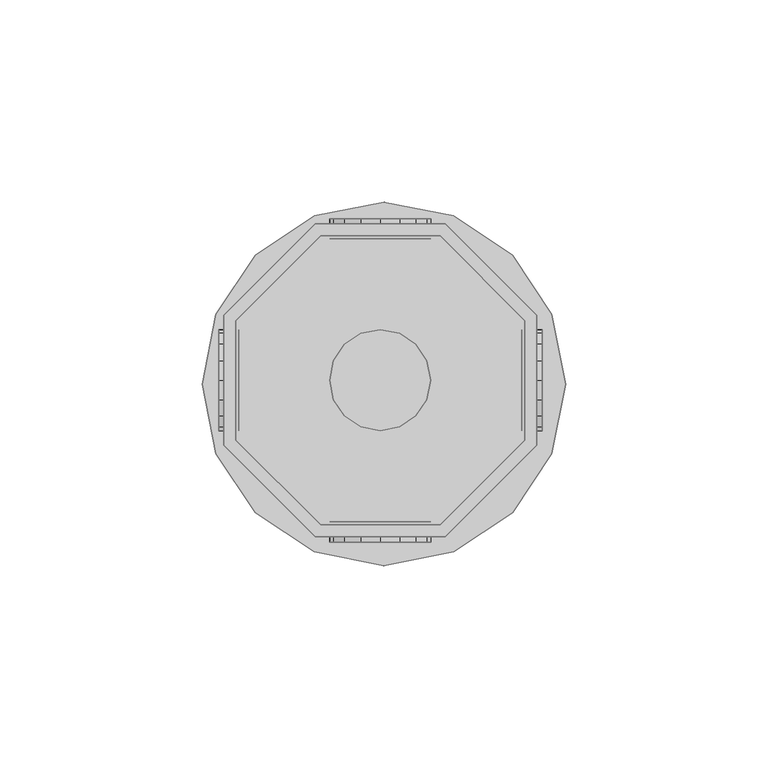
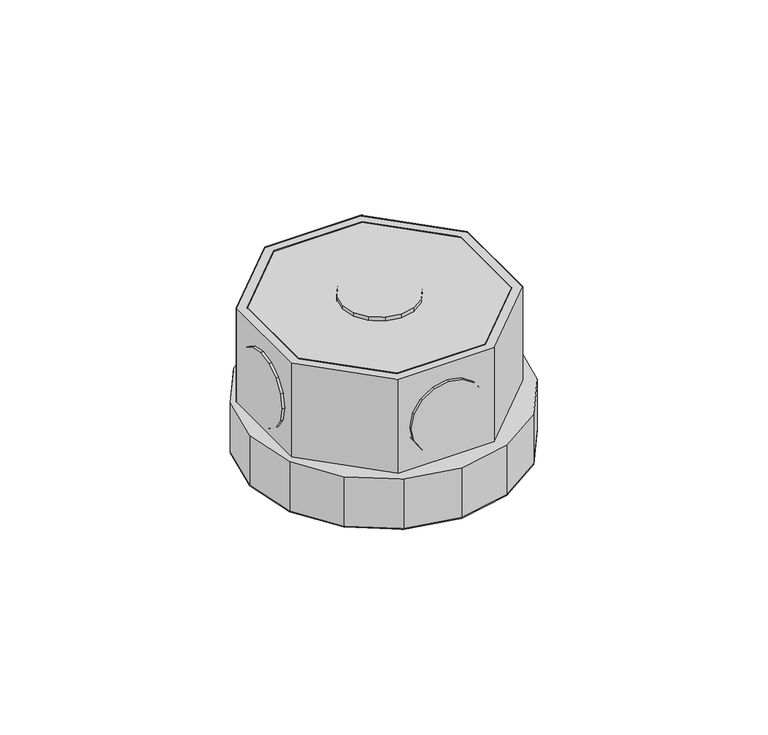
"""IFC4 building model written with IfcOpenShell, lengths in millimetres: light fixture geometry,  213746 :  213746."""

from ifc_helpers import new_model, si_unit, origin, place, context, project, spatial, triangles, source, transform, mapped, element, save


def light_fixture_97118761(model_context):
    return source(origin(), model_context, "Body", "Tessellation", [
        triangles([(13460.0005096, 23883.0003479, 2924.5999741), (13430.3999908, 23883.0003479, 2975.400071), (13430.3999908, 23883.0003479, 2924.5999741), (13460.0005096, 23883.0003479, 2975.400071), (13461.2004364, 23808.5002441, 2924.5999741), (13429.1000702, 23808.5002441, 2975.400071), (13429.1000702, 23808.5002441, 2924.5999741), (13461.2004364, 23808.5002441, 2975.400071), (13409.4001099, 23861.9993042, 2975.400071), (13409.4001099, 23861.9993042, 2924.5999741), (13483.9002136, 23831.1988586, 2924.5999741), (13483.9002136, 23831.1988586, 2975.400071), (13409.4001099, 23832.4011108, 2975.400071), (13409.4001099, 23832.4011108, 2924.5999741), (13483.9002136, 23863.2992249, 2924.5999741), (13483.9002136, 23863.2992249, 2975.400071), (13430.3999908, 23811.500061, 2975.400071), (13430.3999908, 23811.500061, 2924.5999741), (13461.2004364, 23886.0001648, 2924.5999741), (13461.2004364, 23886.0001648, 2975.400071), (13460.0005096, 23811.500061, 2924.5999741), (13460.0005096, 23811.500061, 2975.400071), (13429.1000702, 23886.0001648, 2975.400071), (13429.1000702, 23886.0001648, 2924.5999741), (13480.9003967, 23832.4011108, 2924.5999741), (13480.9003967, 23832.4011108, 2975.400071), (13406.400293, 23863.2992249, 2975.400071), (13406.400293, 23863.2992249, 2924.5999741), (13406.400293, 23831.1988586, 2975.400071), (13480.9003967, 23861.9993042, 2975.400071), (13480.9003967, 23861.9993042, 2924.5999741), (13406.400293, 23831.1988586, 2924.5999741), (13409.4001099, 23832.4011108, 2972.3999634), (13430.3999908, 23811.500061, 2972.3999634), (13460.0005096, 23811.500061, 2972.3999634), (13480.9003967, 23832.4011108, 2972.3999634), (13480.9003967, 23861.9993042, 2972.3999634), (13460.0005096, 23883.0003479, 2972.3999634), (13430.3999908, 23883.0003479, 2972.3999634), (13409.4001099, 23861.9993042, 2972.3999634), (13406.400293, 23863.2992249, 2942.4000504), (13429.1000702, 23886.0001648, 2942.4000504), (13461.2004364, 23886.0001648, 2942.4000504), (13483.9002136, 23863.2992249, 2942.4000504), (13483.9002136, 23831.1988586, 2942.4000504), (13461.2004364, 23808.5002441, 2942.4000504), (13429.1000702, 23808.5002441, 2942.4000504), (13406.400293, 23831.1988586, 2942.4000504), (13428.8000885, 23804.80047, 2942.4000504), (13404.5004089, 23829.0989868, 2942.4000504), (13414.1998169, 23814.4998779, 2942.4000504), (13401.0994537, 23846.3002625, 2942.4000504), (13404.5004089, 23863.5992065, 2942.4000504), (13414.1998169, 23878.2006409, 2942.4000504), (13428.8000885, 23887.9000488, 2942.4000504), (13446.1001953, 23891.2998413, 2942.4000504), (13463.3003082, 23887.9000488, 2942.4000504), (13487.5999878, 23863.5992065, 2942.4000504), (13477.9005798, 23878.2006409, 2942.4000504), (13446.1001953, 23801.3006836, 2942.4000504), (13463.3003082, 23804.80047, 2942.4000504), (13477.9005798, 23814.4998779, 2942.4000504), (13487.5999878, 23829.0989868, 2942.4000504), (13491.0997742, 23846.3002625, 2942.4000504), (13404.5004089, 23829.0989868, 2924.5999741), (13428.8000885, 23804.80047, 2924.5999741), (13414.1998169, 23814.4998779, 2924.5999741), (13401.0994537, 23846.3002625, 2924.5999741), (13404.5004089, 23863.5992065, 2924.5999741), (13414.1998169, 23878.2006409, 2924.5999741), (13428.8000885, 23887.9000488, 2924.5999741), (13446.1001953, 23891.2998413, 2924.5999741), (13463.3003082, 23887.9000488, 2924.5999741), (13487.5999878, 23863.5992065, 2924.5999741), (13477.9005798, 23878.2006409, 2924.5999741), (13446.1001953, 23801.3006836, 2924.5999741), (13463.3003082, 23804.80047, 2924.5999741), (13477.9005798, 23814.4998779, 2924.5999741), (13487.5999878, 23829.0989868, 2924.5999741), (13491.0997742, 23846.3002625, 2924.5999741), (13433.5997955, 23887.2000916, 2952.6000092), (13440.4005432, 23887.2000916, 2945.9001274), (13436.2996307, 23887.2000916, 2948.5999626), (13432.6998505, 23887.2000916, 2957.4000069), (13445.2002502, 23887.2000916, 2944.8998978), (13433.5997955, 23887.2000916, 2962.2000046), (13449.9999573, 23887.2000916, 2945.9001274), (13436.2996307, 23887.2000916, 2966.2000511), (13453.9997131, 23887.2000916, 2948.5999626), (13440.4005432, 23887.2000916, 2968.8998863), (13456.6995483, 23887.2000916, 2952.6000092), (13445.2002502, 23887.2000916, 2969.900116), (13457.6994873, 23887.2000916, 2957.4000069), (13449.9999573, 23887.2000916, 2968.8998863), (13456.6995483, 23887.2000916, 2962.2000046), (13453.9997131, 23887.2000916, 2966.2000511), (13440.4005432, 23882.2003967, 2945.9001274), (13433.5997955, 23882.2003967, 2952.6000092), (13436.2996307, 23882.2003967, 2948.5999626), (13445.2002502, 23882.2003967, 2944.8998978), (13432.6998505, 23882.2003967, 2957.4000069), (13449.9999573, 23882.2003967, 2945.9001274), (13433.5997955, 23882.2003967, 2962.2000046), (13453.9997131, 23882.2003967, 2948.5999626), (13436.2996307, 23882.2003967, 2966.2000511), (13440.4005432, 23882.2003967, 2968.8998863), (13456.6995483, 23882.2003967, 2952.6000092), (13445.2002502, 23882.2003967, 2969.900116), (13457.6994873, 23882.2003967, 2957.4000069), (13449.9999573, 23882.2003967, 2968.8998863), (13456.6995483, 23882.2003967, 2962.2000046), (13453.9997131, 23882.2003967, 2966.2000511), (13433.5997955, 23812.2000183, 2952.6000092), (13440.4005432, 23812.2000183, 2945.9001274), (13436.2996307, 23812.2000183, 2948.5999626), (13432.6998505, 23812.2000183, 2957.4000069), (13445.2002502, 23812.2000183, 2944.8998978), (13433.5997955, 23812.2000183, 2962.2000046), (13449.9999573, 23812.2000183, 2945.9001274), (13436.2996307, 23812.2000183, 2966.2000511), (13453.9997131, 23812.2000183, 2948.5999626), (13440.4005432, 23812.2000183, 2968.8998863), (13456.6995483, 23812.2000183, 2952.6000092), (13445.2002502, 23812.2000183, 2969.900116), (13457.6994873, 23812.2000183, 2957.4000069), (13449.9999573, 23812.2000183, 2968.8998863), (13456.6995483, 23812.2000183, 2962.2000046), (13453.9997131, 23812.2000183, 2966.2000511), (13440.4005432, 23807.2003235, 2945.9001274), (13433.5997955, 23807.2003235, 2952.6000092), (13436.2996307, 23807.2003235, 2948.5999626), (13445.2002502, 23807.2003235, 2944.8998978), (13432.6998505, 23807.2003235, 2957.4000069), (13449.9999573, 23807.2003235, 2945.9001274), (13433.5997955, 23807.2003235, 2962.2000046), (13453.9997131, 23807.2003235, 2948.5999626), (13436.2996307, 23807.2003235, 2966.2000511), (13440.4005432, 23807.2003235, 2968.8998863), (13456.6995483, 23807.2003235, 2952.6000092), (13445.2002502, 23807.2003235, 2969.900116), (13457.6994873, 23807.2003235, 2957.4000069), (13449.9999573, 23807.2003235, 2968.8998863), (13456.6995483, 23807.2003235, 2962.2000046), (13453.9997131, 23807.2003235, 2966.2000511), (13410.200061, 23842.4005005, 2945.9001274), (13410.200061, 23835.7009094, 2952.6000092), (13410.200061, 23838.4007446, 2948.5999626), (13410.200061, 23847.2002075, 2944.8998978), (13410.200061, 23834.7009705, 2957.4000069), (13410.200061, 23851.9999146, 2945.9001274), (13410.200061, 23835.7009094, 2962.2000046), (13410.200061, 23856.0996643, 2948.5999626), (13410.200061, 23838.4007446, 2966.2000511), (13410.200061, 23842.4005005, 2968.8998863), (13410.200061, 23858.7994995, 2952.6000092), (13410.200061, 23847.2002075, 2969.900116), (13410.200061, 23859.6994446, 2957.4000069), (13410.200061, 23851.9999146, 2968.8998863), (13410.200061, 23858.7994995, 2962.2000046), (13410.200061, 23856.0996643, 2966.2000511), (13405.2003662, 23835.7009094, 2952.6000092), (13405.2003662, 23842.4005005, 2945.9001274), (13405.2003662, 23838.4007446, 2948.5999626), (13405.2003662, 23834.7009705, 2957.4000069), (13405.2003662, 23847.2002075, 2944.8998978), (13405.2003662, 23835.7009094, 2962.2000046), (13405.2003662, 23851.9999146, 2945.9001274), (13405.2003662, 23838.4007446, 2966.2000511), (13405.2003662, 23856.0996643, 2948.5999626), (13405.2003662, 23842.4005005, 2968.8998863), (13405.2003662, 23858.7994995, 2952.6000092), (13405.2003662, 23847.2002075, 2969.900116), (13405.2003662, 23859.6994446, 2957.4000069), (13405.2003662, 23851.9999146, 2968.8998863), (13405.2003662, 23858.7994995, 2962.2000046), (13405.2003662, 23856.0996643, 2966.2000511), (13485.2001343, 23842.4005005, 2945.9001274), (13485.2001343, 23835.7009094, 2952.6000092), (13485.2001343, 23838.4007446, 2948.5999626), (13485.2001343, 23847.2002075, 2944.8998978), (13485.2001343, 23834.7009705, 2957.4000069), (13485.2001343, 23851.9999146, 2945.9001274), (13485.2001343, 23835.7009094, 2962.2000046), (13485.2001343, 23856.0996643, 2948.5999626), (13485.2001343, 23838.4007446, 2966.2000511), (13485.2001343, 23842.4005005, 2968.8998863), (13485.2001343, 23858.7994995, 2952.6000092), (13485.2001343, 23847.2002075, 2969.900116), (13485.2001343, 23859.6994446, 2957.4000069), (13485.2001343, 23851.9999146, 2968.8998863), (13485.2001343, 23858.7994995, 2962.2000046), (13485.2001343, 23856.0996643, 2966.2000511), (13480.2004395, 23835.7009094, 2952.6000092), (13480.2004395, 23842.4005005, 2945.9001274), (13480.2004395, 23838.4007446, 2948.5999626), (13480.2004395, 23834.7009705, 2957.4000069), (13480.2004395, 23847.2002075, 2944.8998978), (13480.2004395, 23835.7009094, 2962.2000046), (13480.2004395, 23851.9999146, 2945.9001274), (13480.2004395, 23838.4007446, 2966.2000511), (13480.2004395, 23856.0996643, 2948.5999626), (13480.2004395, 23842.4005005, 2968.8998863), (13480.2004395, 23858.7994995, 2952.6000092), (13480.2004395, 23847.2002075, 2969.900116), (13480.2004395, 23859.6994446, 2957.4000069), (13480.2004395, 23851.9999146, 2968.8998863), (13480.2004395, 23858.7994995, 2962.2000046), (13480.2004395, 23856.0996643, 2966.2000511), (13440.4005432, 23835.7009094, 2976.9999733), (13433.5997955, 23842.4005005, 2976.9999733), (13436.2996307, 23838.4007446, 2976.9999733), (13432.6998505, 23847.2002075, 2976.9999733), (13445.2002502, 23834.7009705, 2976.9999733), (13433.5997955, 23851.9999146, 2976.9999733), (13449.9999573, 23835.7009094, 2976.9999733), (13436.2996307, 23856.0996643, 2976.9999733), (13453.9997131, 23838.4007446, 2976.9999733), (13440.4005432, 23858.7994995, 2976.9999733), (13456.6995483, 23842.4005005, 2976.9999733), (13445.2002502, 23859.6994446, 2976.9999733), (13457.6994873, 23847.2002075, 2976.9999733), (13449.9999573, 23858.7994995, 2976.9999733), (13456.6995483, 23851.9999146, 2976.9999733), (13453.9997131, 23856.0996643, 2976.9999733), (13433.5997955, 23842.4005005, 2971.9999878), (13440.4005432, 23835.7009094, 2971.9999878), (13436.2996307, 23838.4007446, 2971.9999878), (13432.6998505, 23847.2002075, 2971.9999878), (13445.2002502, 23834.7009705, 2971.9999878), (13433.5997955, 23851.9999146, 2971.9999878), (13449.9999573, 23835.7009094, 2971.9999878), (13436.2996307, 23856.0996643, 2971.9999878), (13453.9997131, 23838.4007446, 2971.9999878), (13440.4005432, 23858.7994995, 2971.9999878), (13456.6995483, 23842.4005005, 2971.9999878), (13445.2002502, 23859.6994446, 2971.9999878), (13457.6994873, 23847.2002075, 2971.9999878), (13449.9999573, 23858.7994995, 2971.9999878), (13456.6995483, 23851.9999146, 2971.9999878), (13453.9997131, 23856.0996643, 2971.9999878)], [[1, 2, 3], [2, 1, 4], [5, 6, 7], [6, 5, 8], [3, 9, 10], [9, 3, 2], [11, 8, 5], [8, 11, 12], [10, 13, 14], [13, 10, 9], [15, 12, 11], [12, 15, 16], [14, 17, 18], [17, 14, 13], [19, 16, 15], [16, 19, 20], [17, 21, 18], [21, 17, 22], [23, 19, 24], [19, 23, 20], [22, 25, 21], [25, 22, 26], [27, 24, 28], [24, 27, 23], [6, 13, 29], [29, 13, 27], [27, 13, 9], [27, 9, 23], [23, 9, 2], [23, 2, 4], [23, 4, 20], [20, 4, 30], [8, 17, 6], [6, 17, 13], [17, 8, 22], [12, 22, 8], [22, 12, 26], [30, 26, 12], [16, 30, 12], [20, 30, 16], [30, 1, 31], [1, 30, 4], [6, 32, 7], [32, 6, 29], [32, 14, 7], [28, 14, 32], [14, 28, 10], [24, 10, 28], [10, 24, 3], [1, 3, 24], [19, 1, 24], [31, 1, 19], [7, 18, 5], [14, 18, 7], [5, 18, 21], [5, 21, 11], [11, 21, 25], [11, 25, 31], [11, 31, 15], [15, 31, 19], [26, 31, 25], [31, 26, 30], [29, 28, 32], [28, 29, 27], [17, 33, 34], [33, 17, 13], [35, 17, 34], [17, 35, 22], [36, 22, 35], [22, 36, 26], [37, 26, 36], [26, 37, 30], [38, 30, 37], [30, 38, 4], [2, 38, 39], [38, 2, 4], [17, 9, 13], [9, 17, 22], [9, 22, 2], [2, 22, 26], [2, 26, 4], [4, 26, 30], [13, 40, 33], [40, 13, 9], [40, 34, 33], [35, 34, 40], [35, 40, 39], [35, 39, 36], [36, 39, 38], [36, 38, 37], [9, 39, 40], [39, 9, 2], [24, 41, 28], [41, 24, 42], [19, 42, 24], [42, 19, 43], [44, 19, 15], [19, 44, 43], [45, 15, 11], [15, 45, 44], [46, 11, 5], [11, 46, 45], [47, 5, 7], [5, 47, 46], [32, 47, 7], [47, 32, 48], [28, 48, 32], [48, 28, 41], [49, 50, 51], [48, 50, 49], [50, 48, 52], [41, 52, 48], [52, 41, 53], [53, 41, 54], [42, 54, 41], [54, 42, 55], [55, 42, 43], [55, 43, 56], [56, 43, 57], [57, 43, 44], [57, 44, 58], [57, 58, 59], [47, 49, 60], [49, 47, 48], [47, 60, 46], [61, 46, 60], [46, 61, 62], [46, 62, 45], [45, 62, 63], [44, 45, 63], [44, 63, 64], [44, 64, 58], [65, 66, 67], [66, 65, 32], [68, 32, 65], [32, 68, 28], [28, 68, 69], [70, 28, 69], [28, 70, 24], [71, 24, 70], [19, 24, 71], [19, 71, 72], [73, 19, 72], [19, 73, 15], [74, 15, 73], [74, 73, 75], [76, 66, 7], [32, 7, 66], [5, 76, 7], [76, 5, 77], [77, 5, 78], [11, 78, 5], [78, 11, 79], [79, 11, 15], [79, 15, 80], [80, 15, 74], [57, 75, 73], [75, 57, 59], [56, 73, 72], [73, 56, 57], [55, 72, 71], [72, 55, 56], [54, 71, 70], [71, 54, 55], [53, 70, 69], [70, 53, 54], [52, 69, 68], [69, 52, 53], [50, 68, 65], [68, 50, 52], [51, 65, 67], [65, 51, 50], [66, 51, 67], [51, 66, 49], [76, 49, 66], [49, 76, 60], [77, 60, 76], [60, 77, 61], [78, 61, 77], [61, 78, 62], [79, 62, 78], [62, 79, 63], [80, 63, 79], [63, 80, 64], [75, 58, 74], [58, 75, 59], [74, 64, 80], [64, 74, 58], [81, 82, 83], [82, 81, 84], [85, 82, 84], [85, 84, 86], [87, 85, 86], [87, 86, 88], [87, 88, 89], [89, 88, 90], [89, 90, 91], [91, 90, 92], [91, 92, 93], [93, 92, 94], [93, 94, 95], [95, 94, 96], [97, 98, 99], [98, 97, 100], [101, 98, 100], [101, 100, 102], [103, 101, 102], [103, 102, 104], [103, 104, 105], [105, 104, 106], [106, 104, 107], [106, 107, 108], [108, 107, 109], [108, 109, 110], [110, 109, 111], [110, 111, 112], [87, 104, 102], [104, 87, 89], [85, 102, 100], [102, 85, 87], [82, 100, 97], [100, 82, 85], [83, 97, 99], [97, 83, 82], [98, 83, 99], [83, 98, 81], [101, 81, 98], [81, 101, 84], [103, 84, 101], [84, 103, 86], [105, 86, 103], [86, 105, 88], [106, 88, 105], [88, 106, 90], [108, 90, 106], [90, 108, 92], [110, 92, 108], [92, 110, 94], [112, 94, 110], [94, 112, 96], [95, 112, 111], [112, 95, 96], [93, 111, 109], [111, 93, 95], [89, 107, 104], [107, 89, 91], [91, 109, 107], [109, 91, 93], [113, 114, 115], [114, 113, 116], [117, 114, 116], [117, 116, 118], [119, 117, 118], [119, 118, 120], [119, 120, 121], [121, 120, 122], [121, 122, 123], [123, 122, 124], [123, 124, 125], [125, 124, 126], [125, 126, 127], [127, 126, 128], [129, 130, 131], [130, 129, 132], [133, 130, 132], [133, 132, 134], [135, 133, 134], [135, 134, 136], [135, 136, 137], [137, 136, 138], [138, 136, 139], [138, 139, 140], [140, 139, 141], [140, 141, 142], [142, 141, 143], [142, 143, 144], [119, 136, 134], [136, 119, 121], [117, 134, 132], [134, 117, 119], [114, 132, 129], [132, 114, 117], [115, 129, 131], [129, 115, 114], [130, 115, 131], [115, 130, 113], [133, 113, 130], [113, 133, 116], [135, 116, 133], [116, 135, 118], [137, 118, 135], [118, 137, 120], [138, 120, 137], [120, 138, 122], [140, 122, 138], [122, 140, 124], [142, 124, 140], [124, 142, 126], [144, 126, 142], [126, 144, 128], [127, 144, 143], [144, 127, 128], [125, 143, 141], [143, 125, 127], [121, 139, 136], [139, 121, 123], [123, 141, 139], [141, 123, 125], [145, 146, 147], [146, 145, 148], [149, 146, 148], [149, 148, 150], [151, 149, 150], [151, 150, 152], [151, 152, 153], [153, 152, 154], [154, 152, 155], [154, 155, 156], [156, 155, 157], [156, 157, 158], [158, 157, 159], [158, 159, 160], [161, 162, 163], [162, 161, 164], [165, 162, 164], [165, 164, 166], [167, 165, 166], [167, 166, 168], [169, 167, 168], [169, 168, 170], [169, 170, 171], [171, 170, 172], [171, 172, 173], [173, 172, 174], [173, 174, 175], [175, 174, 176], [158, 176, 174], [176, 158, 160], [156, 174, 172], [174, 156, 158], [154, 172, 170], [172, 154, 156], [153, 170, 168], [170, 153, 154], [151, 168, 166], [168, 151, 153], [149, 166, 164], [166, 149, 151], [146, 164, 161], [164, 146, 149], [147, 161, 163], [161, 147, 146], [162, 147, 163], [147, 162, 145], [165, 145, 162], [145, 165, 148], [167, 148, 165], [148, 167, 150], [169, 150, 167], [150, 169, 152], [171, 152, 169], [152, 171, 155], [173, 155, 171], [155, 173, 157], [176, 159, 175], [159, 176, 160], [175, 157, 173], [157, 175, 159], [177, 178, 179], [178, 177, 180], [181, 178, 180], [181, 180, 182], [183, 181, 182], [183, 182, 184], [183, 184, 185], [185, 184, 186], [186, 184, 187], [186, 187, 188], [188, 187, 189], [188, 189, 190], [190, 189, 191], [190, 191, 192], [193, 194, 195], [194, 193, 196], [197, 194, 196], [197, 196, 198], [199, 197, 198], [199, 198, 200], [201, 199, 200], [201, 200, 202], [201, 202, 203], [203, 202, 204], [203, 204, 205], [205, 204, 206], [205, 206, 207], [207, 206, 208], [190, 208, 206], [208, 190, 192], [188, 206, 204], [206, 188, 190], [186, 204, 202], [204, 186, 188], [185, 202, 200], [202, 185, 186], [183, 200, 198], [200, 183, 185], [181, 198, 196], [198, 181, 183], [178, 196, 193], [196, 178, 181], [179, 193, 195], [193, 179, 178], [194, 179, 195], [179, 194, 177], [197, 177, 194], [177, 197, 180], [199, 180, 197], [180, 199, 182], [201, 182, 199], [182, 201, 184], [203, 184, 201], [184, 203, 187], [205, 187, 203], [187, 205, 189], [208, 191, 207], [191, 208, 192], [207, 189, 205], [189, 207, 191], [209, 210, 211], [212, 210, 209], [212, 209, 213], [214, 212, 213], [214, 213, 215], [216, 214, 215], [216, 215, 217], [216, 217, 218], [218, 217, 219], [218, 219, 220], [220, 219, 221], [220, 221, 222], [222, 221, 223], [222, 223, 224], [225, 226, 227], [226, 225, 228], [229, 226, 228], [229, 228, 230], [231, 229, 230], [231, 230, 232], [231, 232, 233], [233, 232, 234], [233, 234, 235], [235, 234, 236], [235, 236, 237], [237, 236, 238], [237, 238, 239], [239, 238, 240], [222, 240, 238], [240, 222, 224], [220, 238, 236], [238, 220, 222], [218, 236, 234], [236, 218, 220], [216, 234, 232], [234, 216, 218], [214, 232, 230], [232, 214, 216], [212, 230, 228], [230, 212, 214], [210, 228, 225], [228, 210, 212], [211, 225, 227], [225, 211, 210], [226, 211, 227], [211, 226, 209], [229, 209, 226], [209, 229, 213], [231, 213, 229], [213, 231, 215], [233, 215, 231], [215, 233, 217], [235, 217, 233], [217, 235, 219], [237, 219, 235], [219, 237, 221], [240, 223, 239], [223, 240, 224], [239, 221, 237], [221, 239, 223]], closed=False),
    ])


if __name__ == "__main__":
    model = new_model("IFC4")
    model_context = context("Model", 3, world=origin())
    ifc_project = project(units=[si_unit("LENGTHUNIT", "METRE", prefix="MILLI")], contexts=[model_context])
    site = spatial("IfcSite", under=ifc_project)
    building = spatial("IfcBuilding", under=site)
    placement = place(None, origin())
    light_fixture_shape = light_fixture_97118761(model_context)
    element("IfcLightFixture", 1, ObjectType=" 213746 :  213746", at=placement, inside=building, context=model_context, shape_type="MappedRepresentation", body=[
        mapped(light_fixture_shape, transform((0.0, 0.0, 0.0), x_axis=(1.0, 0.0, 0.0), y_axis=(0.0, 1.0, 0.0), z_axis=(0.0, 0.0, 1.0))),
    ])
    save(model, "model.ifc")
